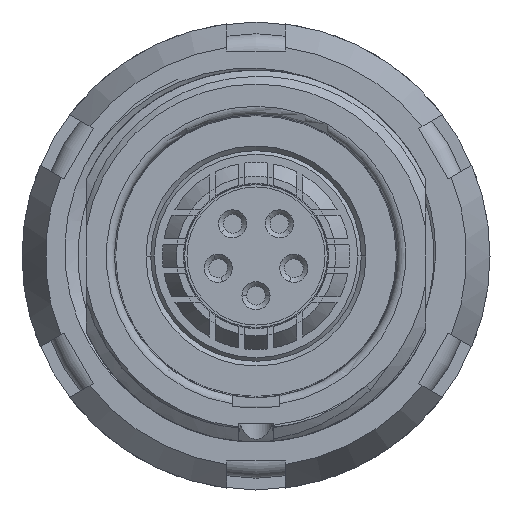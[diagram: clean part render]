
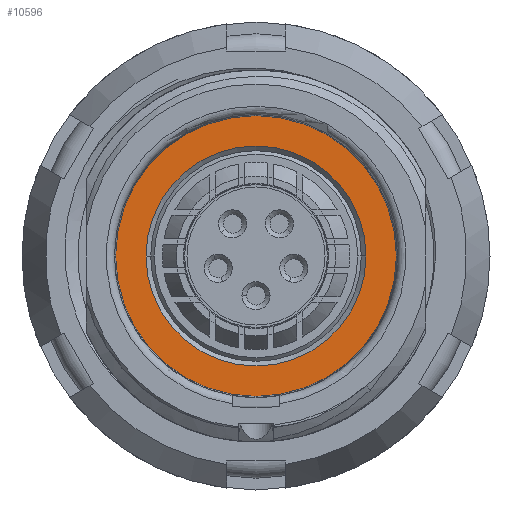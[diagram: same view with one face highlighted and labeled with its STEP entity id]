
A CAD part, front view. The second image highlights one B-rep face of the part: STEP entity #10596.
In plain terms, the highlighted planar face has unit normal (0, -1, 0).
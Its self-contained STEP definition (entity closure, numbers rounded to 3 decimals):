
#1830=CARTESIAN_POINT('',(0.,10.,0.));
#1831=DIRECTION('',(0.,1.,0.));
#1832=DIRECTION('',(-1.,0.,0.));
#1833=AXIS2_PLACEMENT_3D('',#1830,#1831,#1832);
#1835=CARTESIAN_POINT('',(0.,10.,0.));
#1836=DIRECTION('',(0.,1.,0.));
#1837=DIRECTION('',(1.,0.,0.));
#1838=AXIS2_PLACEMENT_3D('',#1835,#1836,#1837);
#1840=CARTESIAN_POINT('',(0.,10.,0.));
#1841=DIRECTION('',(0.,-1.,0.));
#1842=DIRECTION('',(-1.,0.,0.));
#1843=AXIS2_PLACEMENT_3D('',#1840,#1841,#1842);
#1845=CARTESIAN_POINT('',(0.,10.,0.));
#1846=DIRECTION('',(0.,-1.,0.));
#1847=DIRECTION('',(0.,0.,-1.));
#1848=AXIS2_PLACEMENT_3D('',#1845,#1846,#1847);
#1850=CARTESIAN_POINT('',(0.,10.,0.));
#1851=DIRECTION('',(0.,-1.,0.));
#1852=DIRECTION('',(1.,0.,0.));
#1853=AXIS2_PLACEMENT_3D('',#1850,#1851,#1852);
#1855=CARTESIAN_POINT('',(0.,10.,0.));
#1856=DIRECTION('',(0.,-1.,0.));
#1857=DIRECTION('',(0.,0.,1.));
#1858=AXIS2_PLACEMENT_3D('',#1855,#1856,#1857);
#7638=CARTESIAN_POINT('',(0.,10.,
4.7));
#7639=CARTESIAN_POINT('',(-4.7,10.,
0.));
#7640=VERTEX_POINT('',#7638);
#7641=VERTEX_POINT('',#7639);
#7642=CARTESIAN_POINT('',(4.7,10.,
0.));
#7643=VERTEX_POINT('',#7642);
#7644=CARTESIAN_POINT('',(-6.05,10.,0.));
#7645=CARTESIAN_POINT('',(6.05,10.,0.));
#7646=VERTEX_POINT('',#7644);
#7647=VERTEX_POINT('',#7645);
#7648=CARTESIAN_POINT('',(0.,10.,
-4.7));
#7649=VERTEX_POINT('',#7648);
#10577=CARTESIAN_POINT('',(0.,10.,0.));
#10578=DIRECTION('',(0.,1.,0.));
#10579=DIRECTION('',(1.,0.,0.));
#10580=AXIS2_PLACEMENT_3D('',#10577,#10578,#10579);
#10581=PLANE('',#10580);
#10583=ORIENTED_EDGE('',*,*,#10582,.T.);
#10585=ORIENTED_EDGE('',*,*,#10584,.T.);
#10586=EDGE_LOOP('',(#10583,#10585));
#10587=FACE_OUTER_BOUND('',#10586,.F.);
#10589=ORIENTED_EDGE('',*,*,#10588,.T.);
#10591=ORIENTED_EDGE('',*,*,#10590,.T.);
#10592=ORIENTED_EDGE('',*,*,#10566,.T.);
#10593=ORIENTED_EDGE('',*,*,#10564,.T.);
#10594=EDGE_LOOP('',(#10589,#10591,#10592,#10593));
#10595=FACE_BOUND('',#10594,.F.);
#10596=ADVANCED_FACE('',(#10587,#10595),#10581,.F.);
#1834=CIRCLE('',#1833,6.05);
#1839=CIRCLE('',#1838,6.05);
#1844=CIRCLE('',#1843,4.7);
#1849=CIRCLE('',#1848,4.7);
#1854=CIRCLE('',#1853,4.7);
#1859=CIRCLE('',#1858,4.7);
#10564=EDGE_CURVE('',#7640,#7641,#1859,.T.);
#10566=EDGE_CURVE('',#7643,#7640,#1854,.T.);
#10582=EDGE_CURVE('',#7646,#7647,#1834,.T.);
#10584=EDGE_CURVE('',#7647,#7646,#1839,.T.);
#10588=EDGE_CURVE('',#7641,#7649,#1844,.T.);
#10590=EDGE_CURVE('',#7649,#7643,#1849,.T.);
